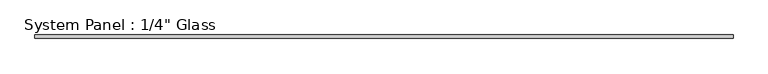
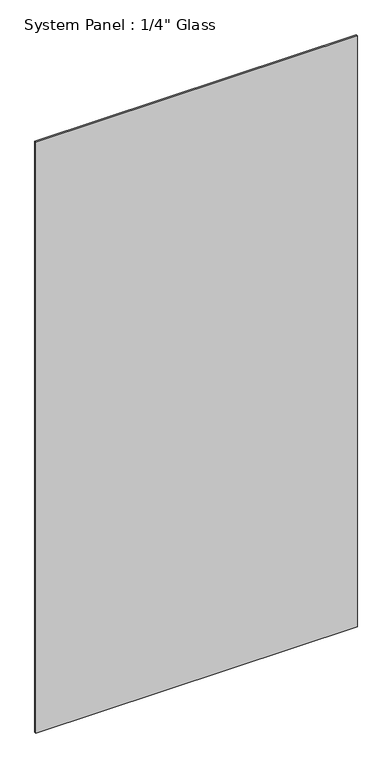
"""IFC4 building model written with IfcOpenShell, lengths in millimetres: plate geometry."""

from ifc_helpers import new_model, si_unit, origin, origin_with_axes, place, context, project, spatial, polyline, outline, extrude, source, transform, mapped, element, save


def plate_9c66726c(model_context):
    return source(origin(), model_context, "Body", "SweptSolid", [
        extrude(outline(polyline([(641.0469322, -3.175), (-641.0469322, -3.175), (-641.0469322, 3.175), (641.0469322, 3.175), (641.0469322, -3.175)])), origin_with_axes(), (0.0, 0.0, 1.0), 2489.2),
    ])


if __name__ == "__main__":
    model = new_model("IFC4")
    model_context = context("Model", 3, world=origin())
    ifc_project = project(units=[si_unit("LENGTHUNIT", "METRE", prefix="MILLI")], contexts=[model_context])
    site = spatial("IfcSite", under=ifc_project)
    building = spatial("IfcBuilding", under=site)
    placement = place(None, origin())
    plate_shape = plate_9c66726c(model_context)
    element("IfcPlate", 1, ObjectType="System Panel : 1/4\" Glass", at=placement, inside=building, context=model_context, shape_type="MappedRepresentation", body=[
        mapped(plate_shape, transform((0.0, 0.0, 0.0), x_axis=(1.0, 0.0, 0.0), y_axis=(0.0, 1.0, 0.0), z_axis=(0.0, 0.0, 1.0))),
    ])
    save(model, "model.ifc")
